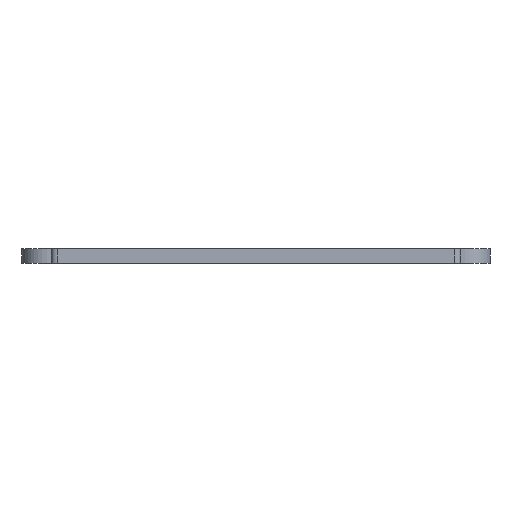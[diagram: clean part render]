
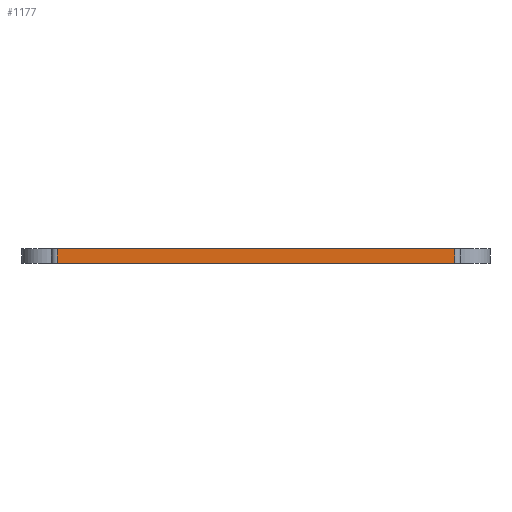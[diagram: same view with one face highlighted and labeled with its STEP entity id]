
A CAD part, front view. The second image highlights one B-rep face of the part: STEP entity #1177.
In plain terms, the highlighted planar face has unit normal (0, -1, 0).
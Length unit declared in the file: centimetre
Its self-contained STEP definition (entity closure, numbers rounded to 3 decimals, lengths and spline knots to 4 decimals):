
#62=PLANE('',#1305);
#119=FACE_OUTER_BOUND('',#195,.T.);
#195=EDGE_LOOP('',(#1085,#1086,#1087,#1088));
#220=LINE('',#1753,#332);
#256=LINE('',#1862,#368);
#307=LINE('',#1984,#419);
#308=LINE('',#1986,#420);
#332=VECTOR('',#1414,1.);
#368=VECTOR('',#1502,1.);
#419=VECTOR('',#1643,1.);
#420=VECTOR('',#1646,1.);
#514=VERTEX_POINT('',#1750);
#515=VERTEX_POINT('',#1752);
#561=VERTEX_POINT('',#1859);
#562=VERTEX_POINT('',#1861);
#638=EDGE_CURVE('',#515,#514,#220,.T.);
#694=EDGE_CURVE('',#561,#562,#256,.T.);
#755=EDGE_CURVE('',#514,#562,#307,.T.);
#756=EDGE_CURVE('',#515,#561,#308,.T.);
#1085=ORIENTED_EDGE('',*,*,#638,.T.);
#1086=ORIENTED_EDGE('',*,*,#755,.T.);
#1087=ORIENTED_EDGE('',*,*,#694,.F.);
#1088=ORIENTED_EDGE('',*,*,#756,.F.);
#1177=ADVANCED_FACE('',(#119),#62,.T.);
#1305=AXIS2_PLACEMENT_3D('',#1985,#1644,#1645);
#1414=DIRECTION('',(1.,0.,0.));
#1502=DIRECTION('',(1.,0.,0.));
#1643=DIRECTION('',(0.,0.,1.));
#1644=DIRECTION('center_axis',(0.,-1.,0.));
#1645=DIRECTION('ref_axis',(1.,0.,0.));
#1646=DIRECTION('',(0.,0.,1.));
#1750=CARTESIAN_POINT('',(3.4,-4.8,3.01));
#1752=CARTESIAN_POINT('',(-3.4,-4.8,3.01));
#1753=CARTESIAN_POINT('',(-3.4,-4.8,3.01));
#1859=CARTESIAN_POINT('',(-3.4,-4.8,3.26));
#1861=CARTESIAN_POINT('',(3.4,-4.8,3.26));
#1862=CARTESIAN_POINT('',(-3.4,-4.8,3.26));
#1984=CARTESIAN_POINT('',(3.4,-4.8,3.01));
#1985=CARTESIAN_POINT('Origin',(-3.4,-4.8,3.01));
#1986=CARTESIAN_POINT('',(-3.4,-4.8,3.01));
